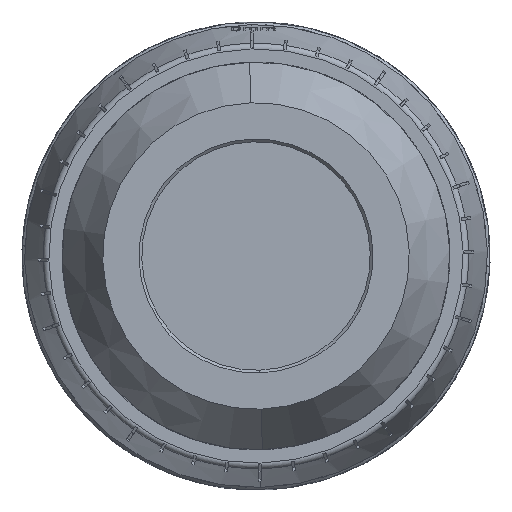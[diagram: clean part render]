
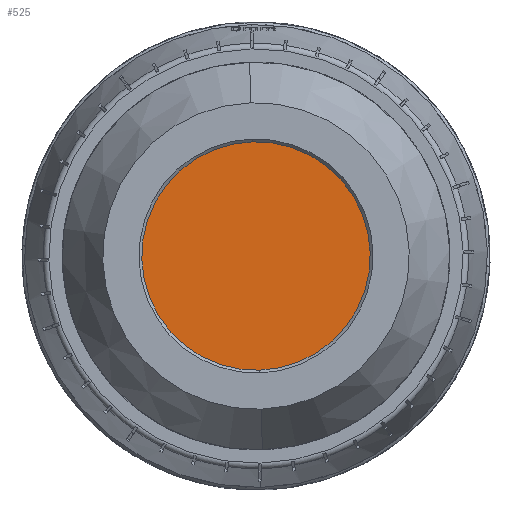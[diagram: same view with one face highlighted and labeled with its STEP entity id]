
A CAD part, front view. The second image highlights one B-rep face of the part: STEP entity #525.
In plain terms, the highlighted planar face has unit normal (0, -1, 0).
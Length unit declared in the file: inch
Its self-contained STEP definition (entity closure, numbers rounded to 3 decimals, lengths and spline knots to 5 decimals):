
#525 = ADVANCED_FACE ( 'NONE', ( #28422 ), #9636, .T. ) ;
#700 = AXIS2_PLACEMENT_3D ( 'NONE', #9739, #27189, #29709 ) ;
#6131 = CARTESIAN_POINT ( 'NONE',  ( 0., -2.8762, 0. ) ) ;
#7390 = CARTESIAN_POINT ( 'NONE',  ( 0., -2.8762, 0. ) ) ;
#7492 = DIRECTION ( 'NONE',  ( 0., 1., 0. ) ) ;
#7646 = EDGE_CURVE ( 'NONE', #7955, #9161, #22028, .T. ) ;
#7757 = CIRCLE ( 'NONE', #24190, 0.61 ) ;
#7955 = VERTEX_POINT ( 'NONE', #18894 ) ;
#8344 = EDGE_LOOP ( 'NONE', ( #30552, #23315 ) ) ;
#8764 = CARTESIAN_POINT ( 'NONE',  ( 0.02025, -2.8762, -0.60966 ) ) ;
#9161 = VERTEX_POINT ( 'NONE', #8764 ) ;
#9636 = PLANE ( 'NONE',  #700 ) ;
#9739 = CARTESIAN_POINT ( 'NONE',  ( 0., -2.8762, 0. ) ) ;
#10717 = AXIS2_PLACEMENT_3D ( 'NONE', #6131, #18440, #28380 ) ;
#18440 = DIRECTION ( 'NONE',  ( 0., 1., 0. ) ) ;
#18894 = CARTESIAN_POINT ( 'NONE',  ( -0.02025, -2.8762, 0.60966 ) ) ;
#22028 = CIRCLE ( 'NONE', #10717, 0.61 ) ;
#23315 = ORIENTED_EDGE ( 'NONE', *, *, #29710, .F. ) ;
#24190 = AXIS2_PLACEMENT_3D ( 'NONE', #7390, #7492, #24907 ) ;
#24907 = DIRECTION ( 'NONE',  ( -0.033, 0., 0.999 ) ) ;
#27189 = DIRECTION ( 'NONE',  ( 0., -1., 0. ) ) ;
#28380 = DIRECTION ( 'NONE',  ( -0.033, 0., 0.999 ) ) ;
#28422 = FACE_OUTER_BOUND ( 'NONE', #8344, .T. ) ;
#29709 = DIRECTION ( 'NONE',  ( 0., 0., -1. ) ) ;
#29710 = EDGE_CURVE ( 'NONE', #9161, #7955, #7757, .T. ) ;
#30552 = ORIENTED_EDGE ( 'NONE', *, *, #7646, .F. ) ;
